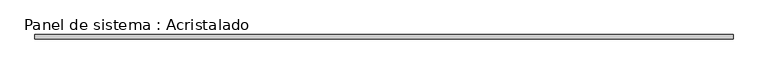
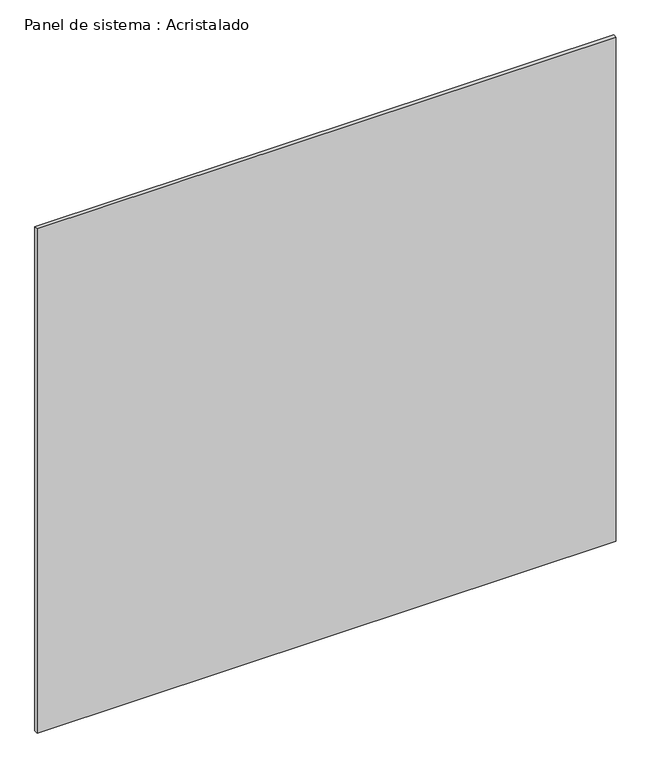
"""IFC4 building model written with IfcOpenShell, lengths in millimetres: plate geometry, Panel de sistema : Acristalado."""

from ifc_helpers import new_model, si_unit, origin, origin_with_axes, place, context, project, spatial, polyline, outline, extrude, source, transform, mapped, element, save


def panel_de_sistema_acristalado_2e88a5b3(model_context):
    return source(origin(), model_context, "Body", "SweptSolid", [
        extrude(outline(polyline([(1575.0, -10.0), (-1575.0, -10.0), (-1575.0, 10.0), (1575.0, 10.0), (1575.0, -10.0)])), origin_with_axes(), (0.0, 0.0, 1.0), 2900.0),
    ])


if __name__ == "__main__":
    model = new_model("IFC4")
    model_context = context("Model", 3, world=origin())
    ifc_project = project(units=[si_unit("LENGTHUNIT", "METRE", prefix="MILLI")], contexts=[model_context])
    site = spatial("IfcSite", under=ifc_project)
    building = spatial("IfcBuilding", under=site)
    placement = place(None, origin())
    panel_de_sistema_acristalado_shape = panel_de_sistema_acristalado_2e88a5b3(model_context)
    element("IfcPlate", 1, ObjectType="Panel de sistema : Acristalado", at=placement, inside=building, context=model_context, shape_type="MappedRepresentation", body=[
        mapped(panel_de_sistema_acristalado_shape, transform((0.0, 0.0, 0.0), x_axis=(1.0, 0.0, 0.0), y_axis=(0.0, 1.0, 0.0), z_axis=(0.0, 0.0, 1.0))),
    ])
    save(model, "model.ifc")
